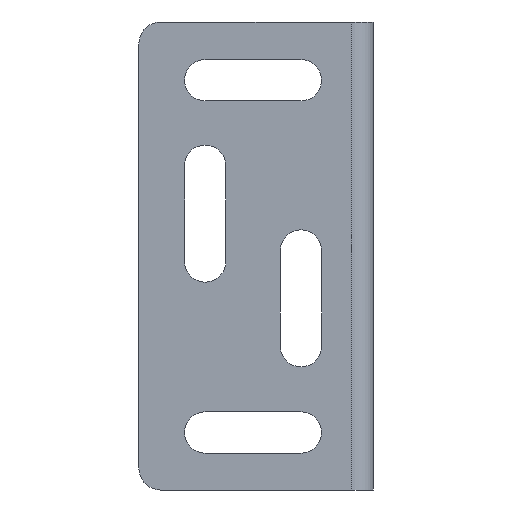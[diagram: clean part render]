
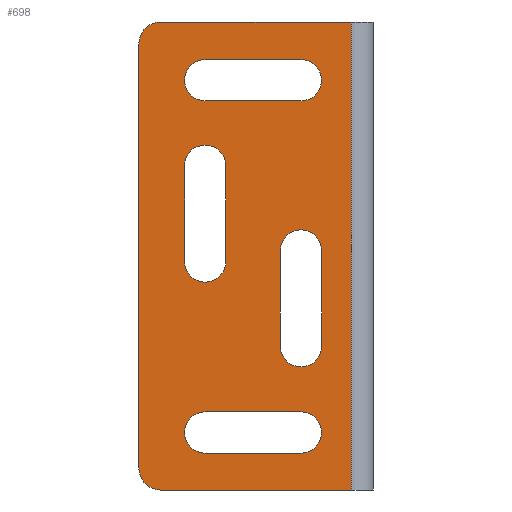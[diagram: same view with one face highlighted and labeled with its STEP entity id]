
A CAD part, front view. The second image highlights one B-rep face of the part: STEP entity #698.
In plain terms, the highlighted planar face has unit normal (0, -1, 0).
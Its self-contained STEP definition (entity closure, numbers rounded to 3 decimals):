
#17=FACE_BOUND('',#93,.T.);
#18=FACE_BOUND('',#94,.T.);
#19=FACE_BOUND('',#95,.T.);
#20=FACE_BOUND('',#96,.T.);
#31=PLANE('',#754);
#54=FACE_OUTER_BOUND('',#92,.T.);
#92=EDGE_LOOP('',(#525,#526,#527,#528,#529,#530));
#93=EDGE_LOOP('',(#531,#532,#533,#534));
#94=EDGE_LOOP('',(#535,#536,#537,#538));
#95=EDGE_LOOP('',(#539,#540,#541,#542));
#96=EDGE_LOOP('',(#543,#544,#545,#546));
#151=LINE('',#1079,#221);
#153=LINE('',#1089,#223);
#154=LINE('',#1093,#224);
#155=LINE('',#1094,#225);
#156=LINE('',#1099,#226);
#157=LINE('',#1102,#227);
#158=LINE('',#1107,#228);
#159=LINE('',#1110,#229);
#160=LINE('',#1115,#230);
#161=LINE('',#1118,#231);
#162=LINE('',#1121,#232);
#163=LINE('',#1125,#233);
#221=VECTOR('',#861,10.);
#223=VECTOR('',#873,10.);
#224=VECTOR('',#876,10.);
#225=VECTOR('',#877,10.);
#226=VECTOR('',#880,10.);
#227=VECTOR('',#883,10.);
#228=VECTOR('',#886,10.);
#229=VECTOR('',#889,10.);
#230=VECTOR('',#892,10.);
#231=VECTOR('',#895,10.);
#232=VECTOR('',#896,10.);
#233=VECTOR('',#899,10.);
#277=CIRCLE('',#752,3.);
#279=CIRCLE('',#755,3.);
#280=CIRCLE('',#756,2.8);
#281=CIRCLE('',#757,2.8);
#282=CIRCLE('',#758,2.8);
#283=CIRCLE('',#759,2.8);
#284=CIRCLE('',#760,2.8);
#285=CIRCLE('',#761,2.8);
#286=CIRCLE('',#762,2.8);
#287=CIRCLE('',#763,2.8);
#325=VERTEX_POINT('',#1076);
#326=VERTEX_POINT('',#1078);
#327=VERTEX_POINT('',#1082);
#329=VERTEX_POINT('',#1088);
#330=VERTEX_POINT('',#1090);
#331=VERTEX_POINT('',#1092);
#332=VERTEX_POINT('',#1095);
#333=VERTEX_POINT('',#1096);
#334=VERTEX_POINT('',#1098);
#335=VERTEX_POINT('',#1100);
#336=VERTEX_POINT('',#1103);
#337=VERTEX_POINT('',#1104);
#338=VERTEX_POINT('',#1106);
#339=VERTEX_POINT('',#1108);
#340=VERTEX_POINT('',#1111);
#341=VERTEX_POINT('',#1112);
#342=VERTEX_POINT('',#1114);
#343=VERTEX_POINT('',#1116);
#344=VERTEX_POINT('',#1119);
#345=VERTEX_POINT('',#1120);
#346=VERTEX_POINT('',#1122);
#347=VERTEX_POINT('',#1124);
#400=EDGE_CURVE('',#325,#326,#151,.T.);
#402=EDGE_CURVE('',#327,#325,#277,.T.);
#405=EDGE_CURVE('',#329,#327,#153,.T.);
#406=EDGE_CURVE('',#330,#329,#279,.T.);
#407=EDGE_CURVE('',#330,#331,#154,.T.);
#408=EDGE_CURVE('',#331,#326,#155,.T.);
#409=EDGE_CURVE('',#332,#333,#280,.T.);
#410=EDGE_CURVE('',#333,#334,#156,.T.);
#411=EDGE_CURVE('',#334,#335,#281,.T.);
#412=EDGE_CURVE('',#335,#332,#157,.T.);
#413=EDGE_CURVE('',#336,#337,#282,.T.);
#414=EDGE_CURVE('',#337,#338,#158,.T.);
#415=EDGE_CURVE('',#338,#339,#283,.T.);
#416=EDGE_CURVE('',#339,#336,#159,.T.);
#417=EDGE_CURVE('',#340,#341,#284,.T.);
#418=EDGE_CURVE('',#341,#342,#160,.T.);
#419=EDGE_CURVE('',#342,#343,#285,.T.);
#420=EDGE_CURVE('',#343,#340,#161,.T.);
#421=EDGE_CURVE('',#344,#345,#162,.T.);
#422=EDGE_CURVE('',#345,#346,#286,.T.);
#423=EDGE_CURVE('',#346,#347,#163,.T.);
#424=EDGE_CURVE('',#347,#344,#287,.T.);
#525=ORIENTED_EDGE('',*,*,#402,.F.);
#526=ORIENTED_EDGE('',*,*,#405,.F.);
#527=ORIENTED_EDGE('',*,*,#406,.F.);
#528=ORIENTED_EDGE('',*,*,#407,.T.);
#529=ORIENTED_EDGE('',*,*,#408,.T.);
#530=ORIENTED_EDGE('',*,*,#400,.F.);
#531=ORIENTED_EDGE('',*,*,#409,.T.);
#532=ORIENTED_EDGE('',*,*,#410,.T.);
#533=ORIENTED_EDGE('',*,*,#411,.T.);
#534=ORIENTED_EDGE('',*,*,#412,.T.);
#535=ORIENTED_EDGE('',*,*,#413,.T.);
#536=ORIENTED_EDGE('',*,*,#414,.T.);
#537=ORIENTED_EDGE('',*,*,#415,.T.);
#538=ORIENTED_EDGE('',*,*,#416,.T.);
#539=ORIENTED_EDGE('',*,*,#417,.T.);
#540=ORIENTED_EDGE('',*,*,#418,.T.);
#541=ORIENTED_EDGE('',*,*,#419,.T.);
#542=ORIENTED_EDGE('',*,*,#420,.T.);
#543=ORIENTED_EDGE('',*,*,#421,.T.);
#544=ORIENTED_EDGE('',*,*,#422,.T.);
#545=ORIENTED_EDGE('',*,*,#423,.T.);
#546=ORIENTED_EDGE('',*,*,#424,.T.);
#698=ADVANCED_FACE('',(#54,#17,#18,#19,#20),#31,.T.);
#752=AXIS2_PLACEMENT_3D('',#1083,#866,#867);
#754=AXIS2_PLACEMENT_3D('',#1087,#871,#872);
#755=AXIS2_PLACEMENT_3D('',#1091,#874,#875);
#756=AXIS2_PLACEMENT_3D('',#1097,#878,#879);
#757=AXIS2_PLACEMENT_3D('',#1101,#881,#882);
#758=AXIS2_PLACEMENT_3D('',#1105,#884,#885);
#759=AXIS2_PLACEMENT_3D('',#1109,#887,#888);
#760=AXIS2_PLACEMENT_3D('',#1113,#890,#891);
#761=AXIS2_PLACEMENT_3D('',#1117,#893,#894);
#762=AXIS2_PLACEMENT_3D('',#1123,#897,#898);
#763=AXIS2_PLACEMENT_3D('',#1126,#900,#901);
#861=DIRECTION('',(1.,0.,0.));
#866=DIRECTION('center_axis',(0.,1.,0.));
#867=DIRECTION('ref_axis',(-0.707,0.,0.707));
#871=DIRECTION('center_axis',(0.,-1.,0.));
#872=DIRECTION('ref_axis',(1.,0.,0.));
#873=DIRECTION('',(0.,0.,1.));
#874=DIRECTION('center_axis',(0.,1.,0.));
#875=DIRECTION('ref_axis',(-0.707,0.,-0.707));
#876=DIRECTION('',(1.,0.,0.));
#877=DIRECTION('',(0.,0.,1.));
#878=DIRECTION('center_axis',(0.,1.,0.));
#879=DIRECTION('ref_axis',(0.,0.,1.));
#880=DIRECTION('',(-1.,0.,0.));
#881=DIRECTION('center_axis',(0.,1.,0.));
#882=DIRECTION('ref_axis',(0.,0.,-1.));
#883=DIRECTION('',(1.,0.,0.));
#884=DIRECTION('center_axis',(0.,1.,0.));
#885=DIRECTION('ref_axis',(1.,0.,0.));
#886=DIRECTION('',(0.,0.,1.));
#887=DIRECTION('center_axis',(0.,1.,0.));
#888=DIRECTION('ref_axis',(-1.,0.,0.));
#889=DIRECTION('',(0.,0.,-1.));
#890=DIRECTION('center_axis',(0.,1.,0.));
#891=DIRECTION('ref_axis',(1.,0.,0.));
#892=DIRECTION('',(0.,0.,1.));
#893=DIRECTION('center_axis',(0.,1.,0.));
#894=DIRECTION('ref_axis',(-1.,0.,0.));
#895=DIRECTION('',(0.,0.,-1.));
#896=DIRECTION('',(1.,0.,0.));
#897=DIRECTION('center_axis',(0.,1.,0.));
#898=DIRECTION('ref_axis',(0.,0.,1.));
#899=DIRECTION('',(-1.,0.,0.));
#900=DIRECTION('center_axis',(0.,1.,0.));
#901=DIRECTION('ref_axis',(0.,0.,
-1.));
#1076=CARTESIAN_POINT('',(-28.8,0.,63.5));
#1078=CARTESIAN_POINT('',(-3.,0.,63.5));
#1079=CARTESIAN_POINT('',(-31.8,0.,63.5));
#1082=CARTESIAN_POINT('',(-31.8,0.,60.5));
#1083=CARTESIAN_POINT('Origin',(-28.8,0.,60.5));
#1087=CARTESIAN_POINT('Origin',(-31.8,0.,0.));
#1088=CARTESIAN_POINT('',(-31.8,0.,3.));
#1089=CARTESIAN_POINT('',(-31.8,0.,0.));
#1090=CARTESIAN_POINT('',(-28.8,0.,0.));
#1091=CARTESIAN_POINT('Origin',(-28.8,0.,3.));
#1092=CARTESIAN_POINT('',(-3.,0.,0.));
#1093=CARTESIAN_POINT('',(-31.8,0.,0.));
#1094=CARTESIAN_POINT('',(-3.,0.,0.));
#1095=CARTESIAN_POINT('',(-9.8,0.,58.4));
#1096=CARTESIAN_POINT('',(-9.8,0.,52.8));
#1097=CARTESIAN_POINT('Origin',(-9.8,0.,55.6));
#1098=CARTESIAN_POINT('',(-22.8,0.,52.8));
#1099=CARTESIAN_POINT('',(-27.3,0.,52.8));
#1100=CARTESIAN_POINT('',(-22.8,0.,58.4));
#1101=CARTESIAN_POINT('Origin',(-22.8,0.,55.6));
#1102=CARTESIAN_POINT('',(-24.05,0.,58.4));
#1103=CARTESIAN_POINT('',(-20.,0.,31.));
#1104=CARTESIAN_POINT('',(-25.6,0.,31.));
#1105=CARTESIAN_POINT('Origin',(-22.8,0.,31.));
#1106=CARTESIAN_POINT('',(-25.6,0.,44.));
#1107=CARTESIAN_POINT('',(-25.6,0.,22.));
#1108=CARTESIAN_POINT('',(-20.,0.,44.));
#1109=CARTESIAN_POINT('Origin',(-22.8,0.,44.));
#1110=CARTESIAN_POINT('',(-20.,0.,18.75));
#1111=CARTESIAN_POINT('',(-7.,0.,19.5));
#1112=CARTESIAN_POINT('',(-12.6,0.,19.5));
#1113=CARTESIAN_POINT('Origin',(-9.8,0.,
19.5));
#1114=CARTESIAN_POINT('',(-12.6,0.,32.5));
#1115=CARTESIAN_POINT('',(-12.6,0.,16.25));
#1116=CARTESIAN_POINT('',(-7.,0.,32.5));
#1117=CARTESIAN_POINT('Origin',(-9.8,0.,
32.5));
#1118=CARTESIAN_POINT('',(-7.,0.,13.));
#1119=CARTESIAN_POINT('',(-22.8,0.,10.6));
#1120=CARTESIAN_POINT('',(-9.8,0.,10.6));
#1121=CARTESIAN_POINT('',(-20.8,0.,10.6));
#1122=CARTESIAN_POINT('',(-9.8,0.,5.));
#1123=CARTESIAN_POINT('Origin',(-9.8,0.,
7.8));
#1124=CARTESIAN_POINT('',(-22.8,0.,5.));
#1125=CARTESIAN_POINT('',(-27.3,0.,5.));
#1126=CARTESIAN_POINT('Origin',(-22.8,0.,7.8));
